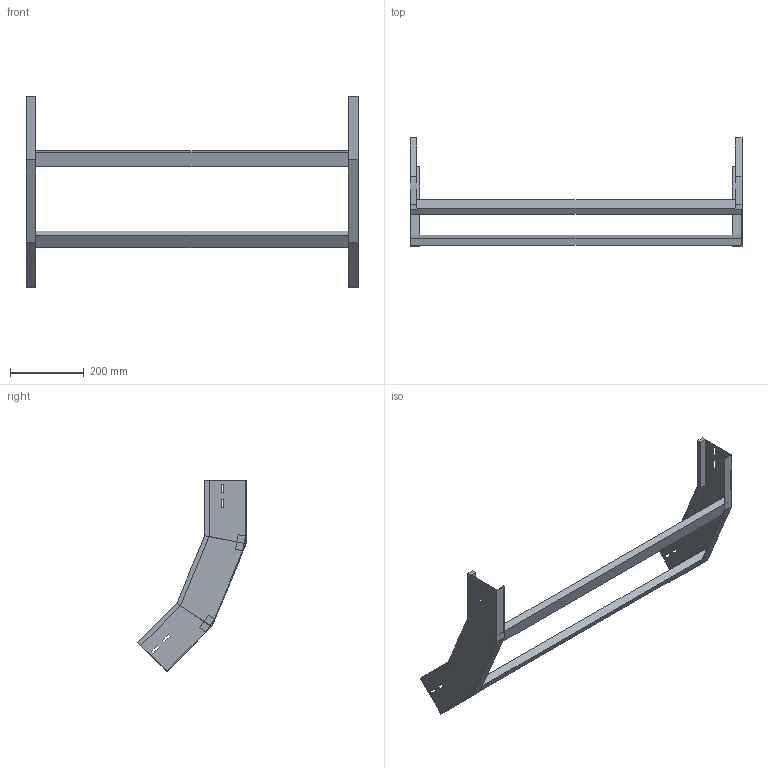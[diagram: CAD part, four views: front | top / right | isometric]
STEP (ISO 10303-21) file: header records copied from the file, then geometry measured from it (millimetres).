
FILE_DESCRIPTION (( 'STEP AP214' ), '1' );
FILE_NAME ('A2X31B5J900XX.step', '2025-03-20T10:07:22', ( '' ), ( '' ), 'SwSTEP 2.0', 'SolidWorks 2023', '' );
FILE_SCHEMA (( 'AUTOMOTIVE_DESIGN' ));
Length unit declared in the file: millimetre
Products named in the file (3): A2X31B5J900XX; LONGH.SALITA_45°_H112.5_R500; TRAVERSINO_900
Assembly tree (4 placements, depth 2):
  A2X31B5J900XX
    LONGH.SALITA_45°_H112.5_R500  x2
    TRAVERSINO_900  x2
Bounding box: 900 x 294.27 x 518.39 mm (x, y, z)
Volume: 1944835.9 mm3; surface area: 559704 mm2
Topology: 4 solids, 4 shells, 96 faces, 232 edges, 144 vertices
Faces by surface type: plane 96
Entity records: 1472 total; most frequent: CARTESIAN_POINT 243, ORIENTED_EDGE 232, DIRECTION 226, LINE 116, VECTOR 116, EDGE_CURVE 116, VERTEX_POINT 72, EDGE_LOOP 56
